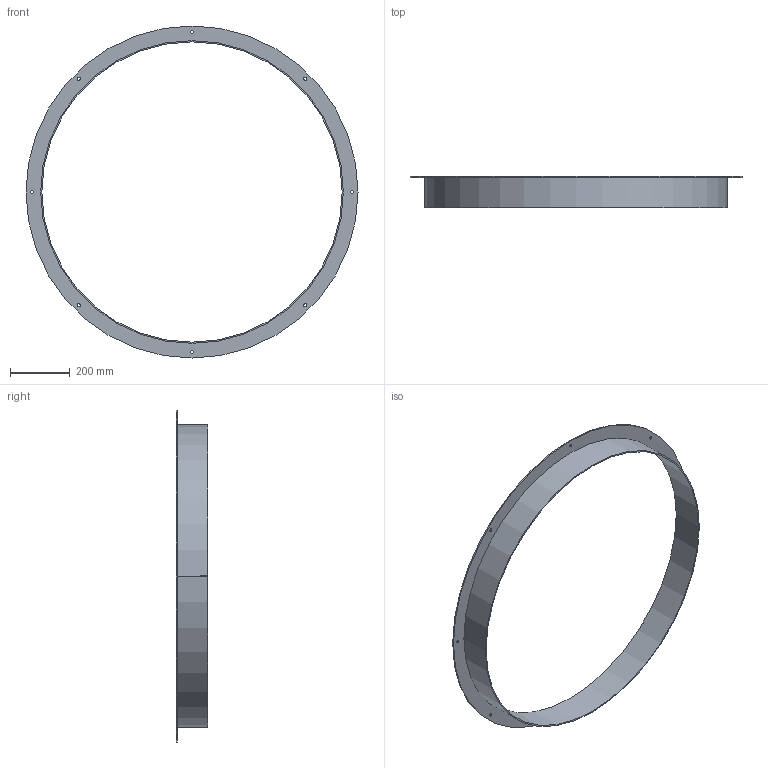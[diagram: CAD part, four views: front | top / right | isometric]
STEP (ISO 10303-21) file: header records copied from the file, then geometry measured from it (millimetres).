
FILE_DESCRIPTION(('STEP AP214'),'1');
FILE_NAME('accessory_5136847000.stp','2017-10-09T07:15:59',('TraceParts'),('TraceParts S.A.'),'Spatial InterOp 3D',' ',' ');
FILE_SCHEMA(('automotive_design'));
Length unit declared in the file: millimetre
Products named in the file (1): accessory_5136847000
Bounding box: 1110 x 105 x 1110 mm (x, y, z)
Volume: 1980824.4 mm3; surface area: 1017982.8 mm2
Topology: 1 solids, 1 shells, 25 faces, 66 edges, 44 vertices
Faces by surface type: cylinder 22, plane 3
Entity records: 1056 total; most frequent: DIRECTION 162, CARTESIAN_POINT 136, ORIENTED_EDGE 132, AXIS2_PLACEMENT_3D 70, EDGE_CURVE 66, EDGE_LOOP 44, VERTEX_POINT 44, CIRCLE 44
